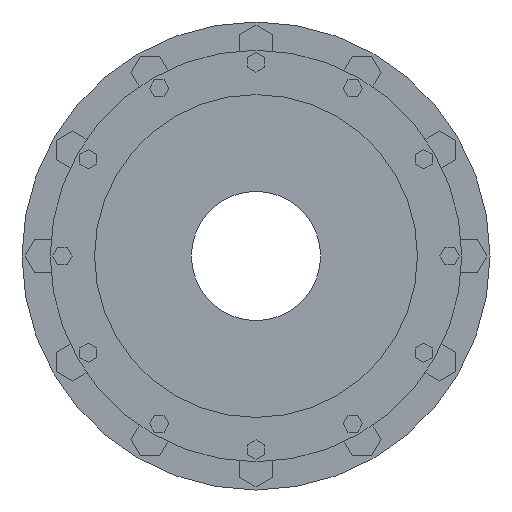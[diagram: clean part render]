
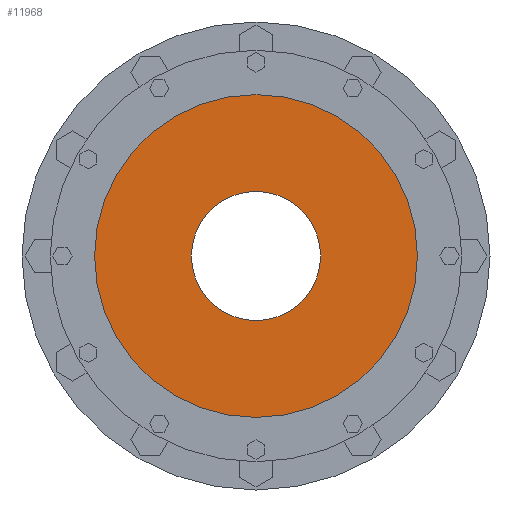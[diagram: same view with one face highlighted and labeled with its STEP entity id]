
A CAD part, left-side view. The second image highlights one B-rep face of the part: STEP entity #11968.
In plain terms, the highlighted planar face has unit normal (-1, 0, 0).
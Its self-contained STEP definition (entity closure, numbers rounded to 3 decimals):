
#11666=CARTESIAN_POINT('',(-310.,0.,0.));
#11667=DIRECTION('',(1.,0.,0.));
#11668=DIRECTION('',(0.,1.,0.));
#11669=AXIS2_PLACEMENT_3D('',#11666,#11667,#11668);
#11745=CARTESIAN_POINT('',(-310.,0.,0.));
#11746=DIRECTION('',(-1.,0.,0.));
#11747=DIRECTION('',(0.,1.,0.));
#11748=AXIS2_PLACEMENT_3D('',#11745,#11746,#11747);
#11750=CARTESIAN_POINT('',(-310.,0.,0.));
#11751=DIRECTION('',(1.,0.,0.));
#11752=DIRECTION('',(0.,1.,0.));
#11753=AXIS2_PLACEMENT_3D('',#11750,#11751,#11752);
#11764=CARTESIAN_POINT('',(-310.,0.,0.));
#11765=DIRECTION('',(-1.,0.,0.));
#11766=DIRECTION('',(0.,1.,0.));
#11767=AXIS2_PLACEMENT_3D('',#11764,#11765,#11766);
#11773=CARTESIAN_POINT('',(-310.,80.,0.));
#11774=CARTESIAN_POINT('',(-310.,-80.,0.));
#11775=VERTEX_POINT('',#11773);
#11776=VERTEX_POINT('',#11774);
#11777=CARTESIAN_POINT('',(-310.,200.,0.));
#11778=CARTESIAN_POINT('',(-310.,-200.,0.));
#11779=VERTEX_POINT('',#11777);
#11780=VERTEX_POINT('',#11778);
#11954=CARTESIAN_POINT('',(-310.,0.,0.));
#11955=DIRECTION('',(1.,0.,0.));
#11956=DIRECTION('',(0.,-1.,0.));
#11957=AXIS2_PLACEMENT_3D('',#11954,#11955,#11956);
#11958=PLANE('',#11957);
#11959=ORIENTED_EDGE('',*,*,#11936,.F.);
#11960=ORIENTED_EDGE('',*,*,#11949,.T.);
#11961=EDGE_LOOP('',(#11959,#11960));
#11962=FACE_OUTER_BOUND('',#11961,.F.);
#11963=ORIENTED_EDGE('',*,*,#11814,.F.);
#11965=ORIENTED_EDGE('',*,*,#11964,.T.);
#11966=EDGE_LOOP('',(#11963,#11965));
#11967=FACE_BOUND('',#11966,.F.);
#11968=ADVANCED_FACE('',(#11962,#11967),#11958,.F.);
#11670=CIRCLE('',#11669,80.);
#11749=CIRCLE('',#11748,200.);
#11754=CIRCLE('',#11753,200.);
#11768=CIRCLE('',#11767,80.);
#11814=EDGE_CURVE('',#11775,#11776,#11670,.T.);
#11936=EDGE_CURVE('',#11779,#11780,#11749,.T.);
#11949=EDGE_CURVE('',#11779,#11780,#11754,.T.);
#11964=EDGE_CURVE('',#11775,#11776,#11768,.T.);
